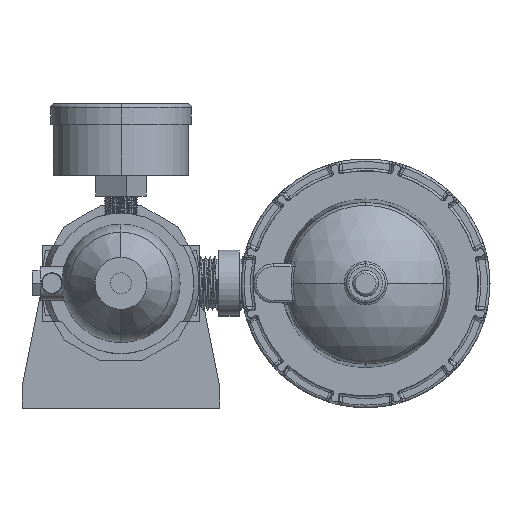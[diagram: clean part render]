
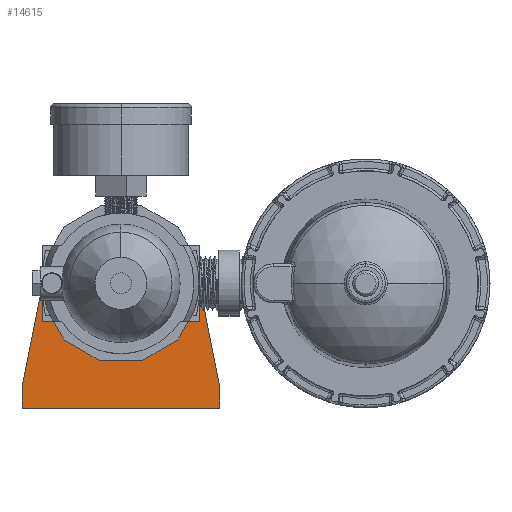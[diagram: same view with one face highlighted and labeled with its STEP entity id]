
A CAD part, front view. The second image highlights one B-rep face of the part: STEP entity #14615.
In plain terms, the highlighted planar face has unit normal (0, -1, 0).
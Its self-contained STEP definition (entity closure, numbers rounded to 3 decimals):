
#768 = CARTESIAN_POINT ( 'NONE',  ( 38., 0., -48. ) ) ;
#976 = CARTESIAN_POINT ( 'NONE',  ( 0., 0., 0. ) ) ;
#1148 = DIRECTION ( 'NONE',  ( 0., 1., 0. ) ) ;
#1647 = DIRECTION ( 'NONE',  ( 0., 1., 0. ) ) ;
#1785 = VERTEX_POINT ( 'NONE', #39371 ) ;
#3103 = VERTEX_POINT ( 'NONE', #31336 ) ;
#3323 = DIRECTION ( 'NONE',  ( 0., 0., 1. ) ) ;
#4638 = PLANE ( 'NONE',  #42812 ) ;
#4785 = EDGE_LOOP ( 'NONE', ( #38617, #31662, #39103, #49213, #38166, #24893 ) ) ;
#5075 = VERTEX_POINT ( 'NONE', #30944 ) ;
#5304 = DIRECTION ( 'NONE',  ( 0., 0., -1. ) ) ;
#5500 = LINE ( 'NONE', #42004, #27354 ) ;
#6780 = CARTESIAN_POINT ( 'NONE',  ( -38., 0., -40. ) ) ;
#7012 = CARTESIAN_POINT ( 'NONE',  ( 0., 0., 0. ) ) ;
#7432 = LINE ( 'NONE', #768, #13706 ) ;
#7775 = VERTEX_POINT ( 'NONE', #32461 ) ;
#9800 = EDGE_LOOP ( 'NONE', ( #46063, #11025 ) ) ;
#10133 = DIRECTION ( 'NONE',  ( 0.194, 0., -0.981 ) ) ;
#11025 = ORIENTED_EDGE ( 'NONE', *, *, #13975, .T. ) ;
#11213 = AXIS2_PLACEMENT_3D ( 'NONE', #7012, #11552, #38733 ) ;
#11552 = DIRECTION ( 'NONE',  ( 0., 1., 0. ) ) ;
#11981 = EDGE_CURVE ( 'NONE', #35796, #3103, #5500, .T. ) ;
#13662 = EDGE_CURVE ( 'NONE', #26760, #20044, #17221, .T. ) ;
#13686 = CARTESIAN_POINT ( 'NONE',  ( 28.937, 0., 5.734 ) ) ;
#13706 = VECTOR ( 'NONE', #5304, 1000. ) ;
#13841 = CARTESIAN_POINT ( 'NONE',  ( -38., 0., -48. ) ) ;
#13975 = EDGE_CURVE ( 'NONE', #5075, #7775, #50876, .T. ) ;
#14573 = EDGE_CURVE ( 'NONE', #20044, #35796, #37713, .T. ) ;
#14615 = ADVANCED_FACE ( 'NONE', ( #51499, #40875 ), #4638, .F. ) ;
#16665 = VECTOR ( 'NONE', #21509, 1000. ) ;
#17221 = LINE ( 'NONE', #6780, #32872 ) ;
#18235 = EDGE_CURVE ( 'NONE', #7775, #5075, #40665, .T. ) ;
#20044 = VERTEX_POINT ( 'NONE', #47614 ) ;
#21250 = CARTESIAN_POINT ( 'NONE',  ( 0., 0., 0. ) ) ;
#21509 = DIRECTION ( 'NONE',  ( -1., 0., 0. ) ) ;
#22346 = LINE ( 'NONE', #51481, #50374 ) ;
#22691 = EDGE_CURVE ( 'NONE', #42999, #26760, #22346, .T. ) ;
#24893 = ORIENTED_EDGE ( 'NONE', *, *, #14573, .F. ) ;
#25585 = CARTESIAN_POINT ( 'NONE',  ( 0., 0., 0. ) ) ;
#26760 = VERTEX_POINT ( 'NONE', #27530 ) ;
#27192 = DIRECTION ( 'NONE',  ( 0.194, 0., 0.981 ) ) ;
#27354 = VECTOR ( 'NONE', #10133, 1000. ) ;
#27530 = CARTESIAN_POINT ( 'NONE',  ( -38., 0., -40. ) ) ;
#28568 = LINE ( 'NONE', #13841, #16665 ) ;
#30944 = CARTESIAN_POINT ( 'NONE',  ( 0., 0., -24. ) ) ;
#31336 = CARTESIAN_POINT ( 'NONE',  ( 38., 0., -40. ) ) ;
#31662 = ORIENTED_EDGE ( 'NONE', *, *, #22691, .F. ) ;
#32159 = AXIS2_PLACEMENT_3D ( 'NONE', #21250, #32932, #32602 ) ;
#32461 = CARTESIAN_POINT ( 'NONE',  ( 0., 0., 24. ) ) ;
#32602 = DIRECTION ( 'NONE',  ( 0., 0., 1. ) ) ;
#32872 = VECTOR ( 'NONE', #27192, 1000. ) ;
#32932 = DIRECTION ( 'NONE',  ( 0., 1., 0. ) ) ;
#35796 = VERTEX_POINT ( 'NONE', #13686 ) ;
#35956 = DIRECTION ( 'NONE',  ( 0., 0., 1. ) ) ;
#37713 = CIRCLE ( 'NONE', #32159, 29.5 ) ;
#38166 = ORIENTED_EDGE ( 'NONE', *, *, #11981, .F. ) ;
#38617 = ORIENTED_EDGE ( 'NONE', *, *, #13662, .F. ) ;
#38733 = DIRECTION ( 'NONE',  ( 0., 0., 1. ) ) ;
#38763 = AXIS2_PLACEMENT_3D ( 'NONE', #25585, #1647, #3323 ) ;
#39005 = EDGE_CURVE ( 'NONE', #1785, #42999, #28568, .T. ) ;
#39103 = ORIENTED_EDGE ( 'NONE', *, *, #39005, .F. ) ;
#39371 = CARTESIAN_POINT ( 'NONE',  ( 38., 0., -48. ) ) ;
#40665 = CIRCLE ( 'NONE', #11213, 24. ) ;
#40875 = FACE_OUTER_BOUND ( 'NONE', #4785, .T. ) ;
#42004 = CARTESIAN_POINT ( 'NONE',  ( 38., 0., -40. ) ) ;
#42812 = AXIS2_PLACEMENT_3D ( 'NONE', #976, #1148, #44580 ) ;
#42999 = VERTEX_POINT ( 'NONE', #46890 ) ;
#44580 = DIRECTION ( 'NONE',  ( 0., 0., 1. ) ) ;
#46012 = EDGE_CURVE ( 'NONE', #3103, #1785, #7432, .T. ) ;
#46063 = ORIENTED_EDGE ( 'NONE', *, *, #18235, .T. ) ;
#46890 = CARTESIAN_POINT ( 'NONE',  ( -38., 0., -48. ) ) ;
#47614 = CARTESIAN_POINT ( 'NONE',  ( -28.937, 0., 5.734 ) ) ;
#49213 = ORIENTED_EDGE ( 'NONE', *, *, #46012, .F. ) ;
#50374 = VECTOR ( 'NONE', #35956, 1000. ) ;
#50876 = CIRCLE ( 'NONE', #38763, 24. ) ;
#51481 = CARTESIAN_POINT ( 'NONE',  ( -38., 0., -48. ) ) ;
#51499 = FACE_BOUND ( 'NONE', #9800, .T. ) ;
